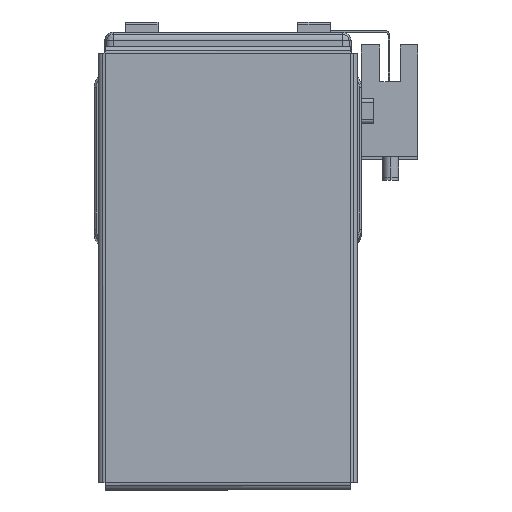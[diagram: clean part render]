
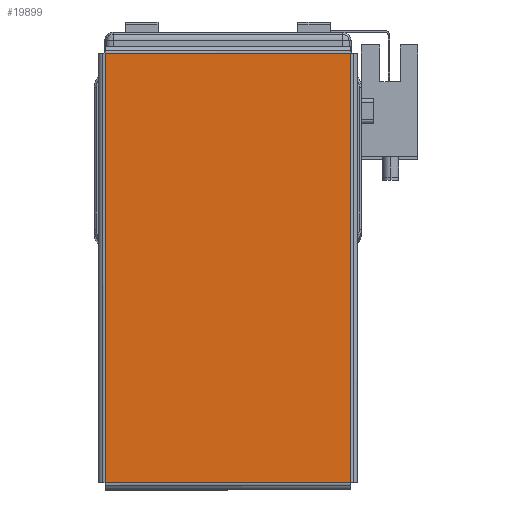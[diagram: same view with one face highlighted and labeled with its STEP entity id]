
A CAD part, top view. The second image highlights one B-rep face of the part: STEP entity #19899.
In plain terms, the highlighted planar face has unit normal (0, 0, 1) as drawn and (0, -1, 0) by its records, which use the part's own axes.
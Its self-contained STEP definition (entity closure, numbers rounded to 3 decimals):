
#1654 = ORIENTED_EDGE ( 'NONE', *, *, #8251, .T. ) ;
#1670 = ORIENTED_EDGE ( 'NONE', *, *, #8264, .T. ) ;
#1676 = ORIENTED_EDGE ( 'NONE', *, *, #8234, .T. ) ;
#1695 = ORIENTED_EDGE ( 'NONE', *, *, #8267, .T. ) ;
#4575 = AXIS2_PLACEMENT_3D ( 'NONE', #17411, #17449, #17436 ) ;
#8234 = EDGE_CURVE ( 'NONE', #9436, #9441, #29480, .T. ) ;
#8251 = EDGE_CURVE ( 'NONE', #9441, #9414, #29613, .T. ) ;
#8264 = EDGE_CURVE ( 'NONE', #9414, #9448, #29583, .T. ) ;
#8267 = EDGE_CURVE ( 'NONE', #9448, #9436, #29579, .T. ) ;
#8579 = EDGE_LOOP ( 'NONE', ( #1695, #1676, #1654, #1670 ) ) ;
#9414 = VERTEX_POINT ( 'NONE', #16485 ) ;
#9436 = VERTEX_POINT ( 'NONE', #16529 ) ;
#9441 = VERTEX_POINT ( 'NONE', #16501 ) ;
#9448 = VERTEX_POINT ( 'NONE', #16539 ) ;
#14878 = FACE_OUTER_BOUND ( 'NONE', #8579, .T. ) ;
#16485 = CARTESIAN_POINT ( 'NONE',  ( 52.263, -1., -29.863 ) ) ;
#16501 = CARTESIAN_POINT ( 'NONE',  ( -52.263, -1., -29.863 ) ) ;
#16529 = CARTESIAN_POINT ( 'NONE',  ( -52.263, -1., 29.863 ) ) ;
#16539 = CARTESIAN_POINT ( 'NONE',  ( 52.263, -1., 29.863 ) ) ;
#17411 = CARTESIAN_POINT ( 'NONE',  ( 0., -1., 0. ) ) ;
#17436 = DIRECTION ( 'NONE',  ( 0., 0., 1. ) ) ;
#17440 = PLANE ( 'NONE',  #4575 ) ;
#17449 = DIRECTION ( 'NONE',  ( 0., 1., 0. ) ) ;
#19899 = ADVANCED_FACE ( 'NONE', ( #14878 ), #17440, .F. ) ;
#29469 = VECTOR ( 'NONE', #31869, 1000. ) ;
#29480 = LINE ( 'NONE', #31851, #29469 ) ;
#29579 = LINE ( 'NONE', #31963, #29592 ) ;
#29583 = LINE ( 'NONE', #31979, #29623 ) ;
#29592 = VECTOR ( 'NONE', #31982, 1000. ) ;
#29613 = LINE ( 'NONE', #31913, #29621 ) ;
#29621 = VECTOR ( 'NONE', #31903, 1000. ) ;
#29623 = VECTOR ( 'NONE', #31960, 1000. ) ;
#31851 = CARTESIAN_POINT ( 'NONE',  ( -52.263, -1., 29.893 ) ) ;
#31869 = DIRECTION ( 'NONE',  ( 0., 0., -1. ) ) ;
#31903 = DIRECTION ( 'NONE',  ( 1., 0., 0. ) ) ;
#31913 = CARTESIAN_POINT ( 'NONE',  ( -52.293, -1., -29.863 ) ) ;
#31960 = DIRECTION ( 'NONE',  ( 0., 0., 1. ) ) ;
#31963 = CARTESIAN_POINT ( 'NONE',  ( 52.293, -1., 29.863 ) ) ;
#31979 = CARTESIAN_POINT ( 'NONE',  ( 52.263, -1., -29.893 ) ) ;
#31982 = DIRECTION ( 'NONE',  ( -1., 0., 0. ) ) ;
